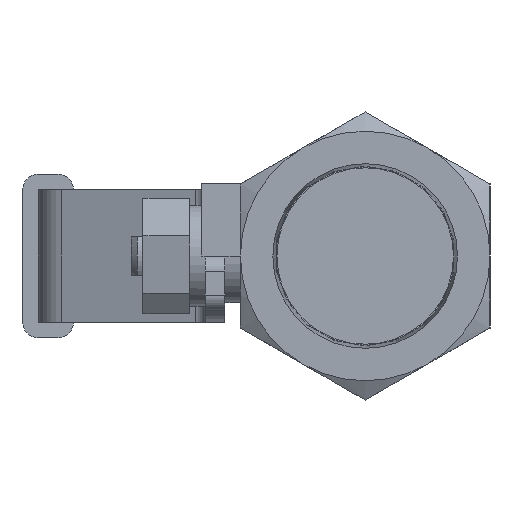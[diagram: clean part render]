
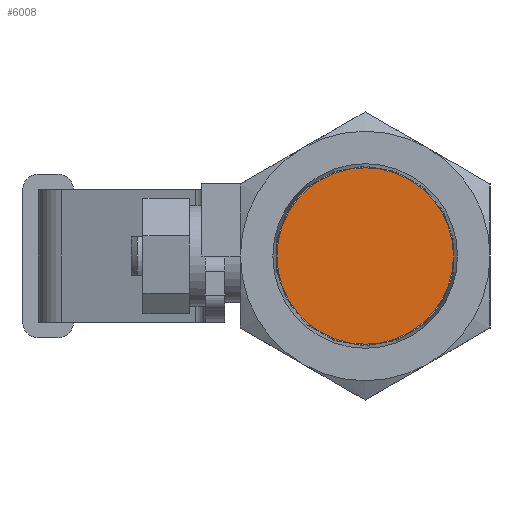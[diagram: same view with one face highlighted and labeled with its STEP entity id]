
A CAD part, left-side view. The second image highlights one B-rep face of the part: STEP entity #6008.
In plain terms, the highlighted planar face has unit normal (-1, 0, 0).
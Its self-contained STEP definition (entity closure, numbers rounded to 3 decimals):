
#197=PLANE('',#6368);
#431=FACE_OUTER_BOUND('',#763,.T.);
#763=EDGE_LOOP('',(#3930));
#2377=CIRCLE('',#6366,11.316);
#2509=VERTEX_POINT('',#8330);
#3067=EDGE_CURVE('',#2509,#2509,#2377,.T.);
#3930=ORIENTED_EDGE('',*,*,#3067,.T.);
#6008=ADVANCED_FACE('',(#431),#197,.T.);
#6366=AXIS2_PLACEMENT_3D('',#8331,#6822,#6823);
#6368=AXIS2_PLACEMENT_3D('',#8335,#6827,#6828);
#6822=DIRECTION('center_axis',(-1.,0.,0.));
#6823=DIRECTION('ref_axis',(0.,0.,
1.));
#6827=DIRECTION('center_axis',(-1.,0.,0.));
#6828=DIRECTION('ref_axis',(0.,0.,
1.));
#8330=CARTESIAN_POINT('',(-32.849,-11.425,-11.316));
#8331=CARTESIAN_POINT('Origin',(-32.849,-11.425,0.));
#8335=CARTESIAN_POINT('Origin',(-32.849,-11.425,0.));
